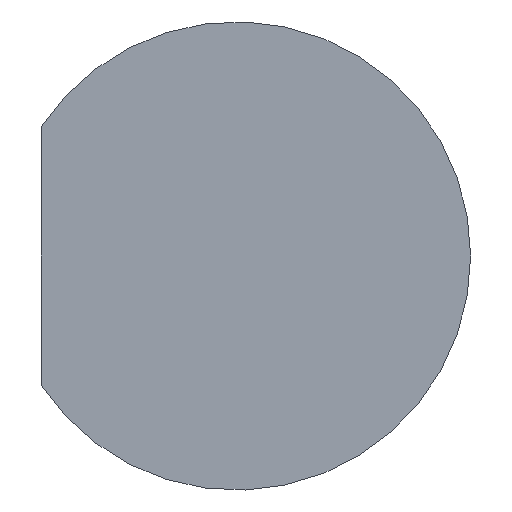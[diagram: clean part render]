
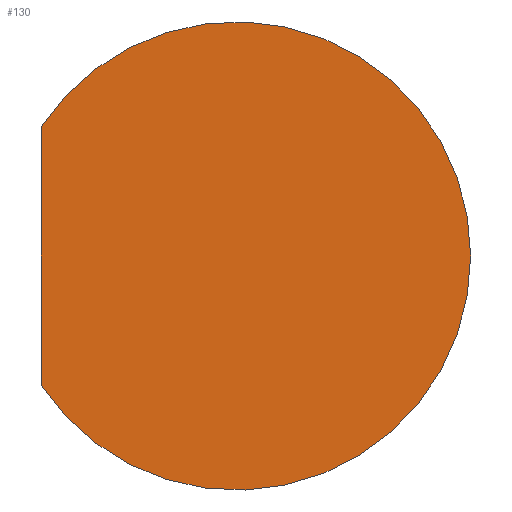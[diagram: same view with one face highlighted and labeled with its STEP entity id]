
A CAD part, left-side view. The second image highlights one B-rep face of the part: STEP entity #130.
In plain terms, the highlighted planar face has unit normal (-1, 0, 0).
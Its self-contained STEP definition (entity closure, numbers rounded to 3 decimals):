
#21 = EDGE_CURVE('',#22,#24,#26,.T.);
#22 = VERTEX_POINT('',#23);
#23 = CARTESIAN_POINT('',(-64.,5.,3.317));
#24 = VERTEX_POINT('',#25);
#25 = CARTESIAN_POINT('',(-64.,5.,-3.317));
#26 = SURFACE_CURVE('',#27,(#32,#44),.PCURVE_S1.);
#27 = CIRCLE('',#28,6.);
#28 = AXIS2_PLACEMENT_3D('',#29,#30,#31);
#29 = CARTESIAN_POINT('',(-64.,0.,0.));
#30 = DIRECTION('',(1.,0.,0.));
#31 = DIRECTION('',(0.,1.,0.));
#32 = PCURVE('',#33,#38);
#33 = CYLINDRICAL_SURFACE('',#34,6.);
#34 = AXIS2_PLACEMENT_3D('',#35,#36,#37);
#35 = CARTESIAN_POINT('',(-64.,0.,0.));
#36 = DIRECTION('',(-1.,-0.,-0.));
#37 = DIRECTION('',(0.,1.,0.));
#38 = DEFINITIONAL_REPRESENTATION('',(#39),#43);
#39 = LINE('',#40,#41);
#40 = CARTESIAN_POINT('',(-0.,0.));
#41 = VECTOR('',#42,1.);
#42 = DIRECTION('',(-1.,0.));
#43 = ( GEOMETRIC_REPRESENTATION_CONTEXT(2) 
PARAMETRIC_REPRESENTATION_CONTEXT() REPRESENTATION_CONTEXT('2D SPACE',''
  ) );
#44 = PCURVE('',#45,#50);
#45 = PLANE('',#46);
#46 = AXIS2_PLACEMENT_3D('',#47,#48,#49);
#47 = CARTESIAN_POINT('',(-64.,0.,0.));
#48 = DIRECTION('',(1.,0.,0.));
#49 = DIRECTION('',(-0.,0.,1.));
#50 = DEFINITIONAL_REPRESENTATION('',(#51),#55);
#51 = CIRCLE('',#52,6.);
#52 = AXIS2_PLACEMENT_2D('',#53,#54);
#53 = CARTESIAN_POINT('',(0.,0.));
#54 = DIRECTION('',(0.,-1.));
#55 = ( GEOMETRIC_REPRESENTATION_CONTEXT(2) 
PARAMETRIC_REPRESENTATION_CONTEXT() REPRESENTATION_CONTEXT('2D SPACE',''
  ) );
#72 = PLANE('',#73);
#73 = AXIS2_PLACEMENT_3D('',#74,#75,#76);
#74 = CARTESIAN_POINT('',(-65.,5.,-7.));
#75 = DIRECTION('',(0.,1.,0.));
#76 = DIRECTION('',(0.,0.,1.));
#130 = ADVANCED_FACE('',(#131),#45,.F.);
#131 = FACE_BOUND('',#132,.F.);
#132 = EDGE_LOOP('',(#133,#152));
#133 = ORIENTED_EDGE('',*,*,#134,.T.);
#134 = EDGE_CURVE('',#24,#22,#135,.T.);
#135 = SURFACE_CURVE('',#136,(#140,#146),.PCURVE_S1.);
#136 = LINE('',#137,#138);
#137 = CARTESIAN_POINT('',(-64.,5.,-3.5));
#138 = VECTOR('',#139,1.);
#139 = DIRECTION('',(0.,0.,1.));
#140 = PCURVE('',#45,#141);
#141 = DEFINITIONAL_REPRESENTATION('',(#142),#145);
#142 = B_SPLINE_CURVE_WITH_KNOTS('',1,(#143,#144),.UNSPECIFIED.,.F.,.F.,
  (2,2),(-2.5,9.5),.PIECEWISE_BEZIER_KNOTS.);
#143 = CARTESIAN_POINT('',(-6.,-5.));
#144 = CARTESIAN_POINT('',(6.,-5.));
#145 = ( GEOMETRIC_REPRESENTATION_CONTEXT(2) 
PARAMETRIC_REPRESENTATION_CONTEXT() REPRESENTATION_CONTEXT('2D SPACE',''
  ) );
#146 = PCURVE('',#72,#147);
#147 = DEFINITIONAL_REPRESENTATION('',(#148),#151);
#148 = B_SPLINE_CURVE_WITH_KNOTS('',1,(#149,#150),.UNSPECIFIED.,.F.,.F.,
  (2,2),(-2.5,9.5),.PIECEWISE_BEZIER_KNOTS.);
#149 = CARTESIAN_POINT('',(1.,1.));
#150 = CARTESIAN_POINT('',(13.,1.));
#151 = ( GEOMETRIC_REPRESENTATION_CONTEXT(2) 
PARAMETRIC_REPRESENTATION_CONTEXT() REPRESENTATION_CONTEXT('2D SPACE',''
  ) );
#152 = ORIENTED_EDGE('',*,*,#21,.T.);
